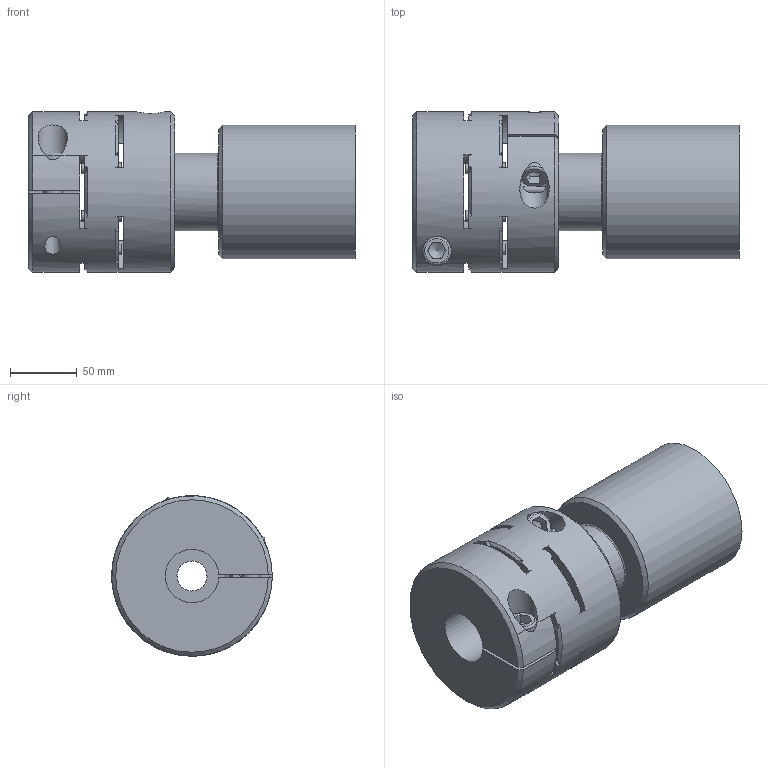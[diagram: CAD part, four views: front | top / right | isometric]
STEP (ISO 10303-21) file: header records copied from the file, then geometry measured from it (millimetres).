
FILE_DESCRIPTION( ( 'Unknown' ), '1' );
FILE_NAME( 'F:/JAKOB-STEP+IGES-Dateien/STEP-Dateien/EKZ/EKZ 700.stp', 'Unknown', ( 'Unknown' ), ( 'Unknown' ), 'PSStep 10.1', 'Unknown', ' ' );
FILE_SCHEMA( ( 'AUTOMOTIVE_DESIGN { 1 0 10303 214 1 1 1 1 }' ) );
Length unit declared in the file: millimetre
Products named in the file (1): 22720381
Bounding box: 244 x 120 x 120 mm (x, y, z)
Volume: 1257759.9 mm3; surface area: 207391.9 mm2
Topology: 1 solids, 1 shells, 227 faces, 646 edges, 419 vertices
Faces by surface type: cylinder 81, cone 75, plane 66, torus 5
Full cylindrical faces by diameter (mm): 8 x8, 12 x2, 14 x2, 14.5 x2, 15 x2, 21 x2, 22 x2, 22.5 x1, 46 x1, 58 x3, 77 x1, 90 x1, 100 x1, 120 x1
Entity records: 9784 total; most frequent: CARTESIAN_POINT 2366, DIRECTION 1160, ORIENTED_EDGE 1154, EDGE_CURVE 577, AXIS2_PLACEMENT_3D 505, VERTEX_POINT 399, EDGE_LOOP 306, CIRCLE 278
